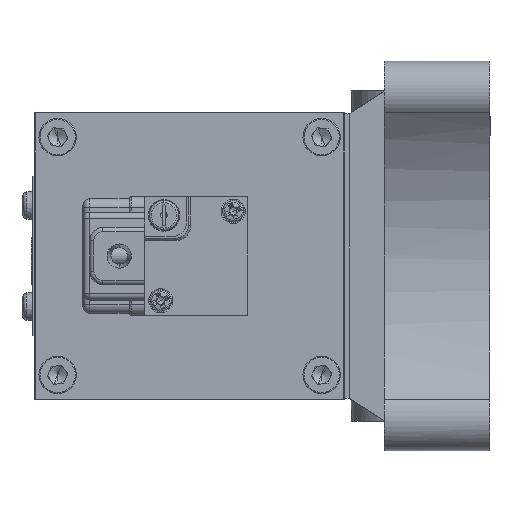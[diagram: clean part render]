
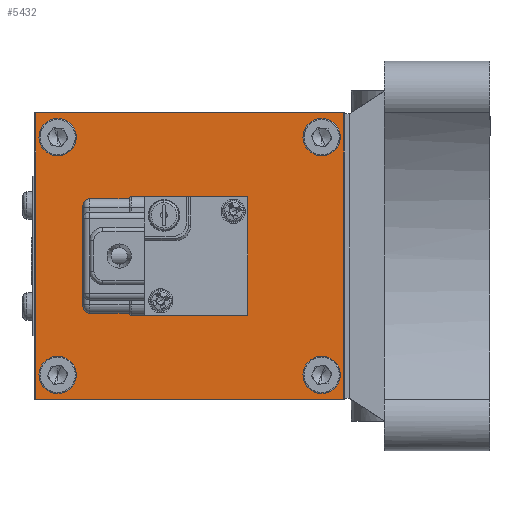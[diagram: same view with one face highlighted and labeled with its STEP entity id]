
A CAD part, left-side view. The second image highlights one B-rep face of the part: STEP entity #5432.
In plain terms, the highlighted planar face has unit normal (-1, 0, 0) as drawn and (0, 0, -1) by its records, which use the part's own axes.
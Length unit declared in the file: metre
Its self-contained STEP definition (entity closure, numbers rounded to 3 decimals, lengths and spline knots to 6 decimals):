
#82 = CIRCLE ( 'NONE', #16246, 0.0025 ) ;
#99 = EDGE_LOOP ( 'NONE', ( #13748, #11259, #19195, #10562 ) ) ;
#149 = DIRECTION ( 'NONE',  ( 1., 0., 0. ) ) ;
#513 = VERTEX_POINT ( 'NONE', #1825 ) ;
#576 = CARTESIAN_POINT ( 'NONE',  ( 0.0325, 0.07125, 0. ) ) ;
#649 = VERTEX_POINT ( 'NONE', #576 ) ;
#926 = EDGE_CURVE ( 'NONE', #16046, #649, #6958, .T. ) ;
#1330 = CARTESIAN_POINT ( 'NONE',  ( 0.0325, 0.03625, 0. ) ) ;
#1347 = VERTEX_POINT ( 'NONE', #2848 ) ;
#1543 = AXIS2_PLACEMENT_3D ( 'NONE', #9077, #20257, #10675 ) ;
#1825 = CARTESIAN_POINT ( 'NONE',  ( -0.0245, 0.06625, 0. ) ) ;
#1931 = EDGE_CURVE ( 'NONE', #1347, #16046, #16951, .T. ) ;
#1996 = CARTESIAN_POINT ( 'NONE',  ( -0.027, 0.00625, 0. ) ) ;
#2028 = VERTEX_POINT ( 'NONE', #7120 ) ;
#2056 = CIRCLE ( 'NONE', #1543, 0.0025 ) ;
#2358 = CARTESIAN_POINT ( 'NONE',  ( -0.0245, 0.00625, 0. ) ) ;
#2428 = DIRECTION ( 'NONE',  ( 1., 0., 0. ) ) ;
#2848 = CARTESIAN_POINT ( 'NONE',  ( -0.0325, 0.00125, 0. ) ) ;
#2873 = CARTESIAN_POINT ( 'NONE',  ( 0.0295, 0.06625, 0. ) ) ;
#2987 = AXIS2_PLACEMENT_3D ( 'NONE', #7156, #11970, #2428 ) ;
#3034 = CARTESIAN_POINT ( 'NONE',  ( 0.0295, 0.00625, 0. ) ) ;
#3126 = FACE_BOUND ( 'NONE', #18095, .T. ) ;
#3540 = DIRECTION ( 'NONE',  ( 0., 0., -1. ) ) ;
#3574 = EDGE_CURVE ( 'NONE', #2028, #1347, #6153, .T. ) ;
#3612 = DIRECTION ( 'NONE',  ( 1., 0., 0. ) ) ;
#3766 = EDGE_CURVE ( 'NONE', #649, #2028, #4206, .T. ) ;
#3818 = CIRCLE ( 'NONE', #4789, 0.0025 ) ;
#3978 = PLANE ( 'NONE',  #2987 ) ;
#4143 = ORIENTED_EDGE ( 'NONE', *, *, #13050, .F. ) ;
#4206 = LINE ( 'NONE', #12835, #20667 ) ;
#4667 = EDGE_CURVE ( 'NONE', #513, #8524, #15856, .T. ) ;
#4789 = AXIS2_PLACEMENT_3D ( 'NONE', #16013, #6426, #17658 ) ;
#4856 = CARTESIAN_POINT ( 'NONE',  ( 0.027, 0.06625, 0. ) ) ;
#4865 = VERTEX_POINT ( 'NONE', #7364 ) ;
#5246 = DIRECTION ( 'NONE',  ( 1., 0., 0. ) ) ;
#5312 = CARTESIAN_POINT ( 'NONE',  ( 0., 0.00125, 0. ) ) ;
#5432 = ADVANCED_FACE ( 'NONE', ( #11596, #19626, #3126, #15344, #11102 ), #3978, .F. ) ;
#5600 = EDGE_LOOP ( 'NONE', ( #7239, #10345 ) ) ;
#6153 = LINE ( 'NONE', #19545, #10430 ) ;
#6422 = DIRECTION ( 'NONE',  ( 1., 0., 0. ) ) ;
#6426 = DIRECTION ( 'NONE',  ( 0., 0., -1. ) ) ;
#6428 = CARTESIAN_POINT ( 'NONE',  ( 0.0245, 0.06625, 0. ) ) ;
#6958 = LINE ( 'NONE', #1330, #9222 ) ;
#7096 = CARTESIAN_POINT ( 'NONE',  ( -0.027, 0.06625, 0. ) ) ;
#7120 = CARTESIAN_POINT ( 'NONE',  ( -0.0325, 0.07125, 0. ) ) ;
#7156 = CARTESIAN_POINT ( 'NONE',  ( -0.0325, 0.00125, 0. ) ) ;
#7239 = ORIENTED_EDGE ( 'NONE', *, *, #4667, .F. ) ;
#7364 = CARTESIAN_POINT ( 'NONE',  ( 0.0245, 0.00625, 0. ) ) ;
#7998 = CARTESIAN_POINT ( 'NONE',  ( -0.0295, 0.00625, 0. ) ) ;
#8101 = EDGE_CURVE ( 'NONE', #17794, #4865, #82, .T. ) ;
#8241 = ORIENTED_EDGE ( 'NONE', *, *, #11635, .F. ) ;
#8511 = EDGE_CURVE ( 'NONE', #12516, #8824, #2056, .T. ) ;
#8524 = VERTEX_POINT ( 'NONE', #10613 ) ;
#8715 = DIRECTION ( 'NONE',  ( 1., 0., 0. ) ) ;
#8820 = VERTEX_POINT ( 'NONE', #7998 ) ;
#8824 = VERTEX_POINT ( 'NONE', #6428 ) ;
#9064 = DIRECTION ( 'NONE',  ( 0., 0., -1. ) ) ;
#9077 = CARTESIAN_POINT ( 'NONE',  ( 0.027, 0.06625, 0. ) ) ;
#9222 = VECTOR ( 'NONE', #9270, 1. ) ;
#9270 = DIRECTION ( 'NONE',  ( 0., 1., 0. ) ) ;
#9659 = CIRCLE ( 'NONE', #11859, 0.0025 ) ;
#9692 = DIRECTION ( 'NONE',  ( 0., 0., -1. ) ) ;
#10345 = ORIENTED_EDGE ( 'NONE', *, *, #19529, .F. ) ;
#10430 = VECTOR ( 'NONE', #19526, 1. ) ;
#10562 = ORIENTED_EDGE ( 'NONE', *, *, #1931, .F. ) ;
#10613 = CARTESIAN_POINT ( 'NONE',  ( -0.0295, 0.06625, 0. ) ) ;
#10675 = DIRECTION ( 'NONE',  ( 1., 0., 0. ) ) ;
#11102 = FACE_OUTER_BOUND ( 'NONE', #99, .T. ) ;
#11259 = ORIENTED_EDGE ( 'NONE', *, *, #3766, .F. ) ;
#11517 = VERTEX_POINT ( 'NONE', #2358 ) ;
#11574 = AXIS2_PLACEMENT_3D ( 'NONE', #4856, #16011, #6422 ) ;
#11596 = FACE_BOUND ( 'NONE', #5600, .T. ) ;
#11635 = EDGE_CURVE ( 'NONE', #4865, #17794, #9659, .T. ) ;
#11843 = CARTESIAN_POINT ( 'NONE',  ( 0.0325, 0.00125, 0. ) ) ;
#11859 = AXIS2_PLACEMENT_3D ( 'NONE', #18653, #9064, #20245 ) ;
#11970 = DIRECTION ( 'NONE',  ( 0., 0., 1. ) ) ;
#12516 = VERTEX_POINT ( 'NONE', #2873 ) ;
#12835 = CARTESIAN_POINT ( 'NONE',  ( 0., 0.07125, 0. ) ) ;
#12895 = DIRECTION ( 'NONE',  ( -1., 0., 0. ) ) ;
#13050 = EDGE_CURVE ( 'NONE', #8820, #11517, #16105, .T. ) ;
#13073 = CARTESIAN_POINT ( 'NONE',  ( -0.027, 0.06625, 0. ) ) ;
#13133 = DIRECTION ( 'NONE',  ( 0., 0., -1. ) ) ;
#13540 = CIRCLE ( 'NONE', #17390, 0.0025 ) ;
#13617 = ORIENTED_EDGE ( 'NONE', *, *, #17344, .F. ) ;
#13748 = ORIENTED_EDGE ( 'NONE', *, *, #3574, .F. ) ;
#13990 = ORIENTED_EDGE ( 'NONE', *, *, #20033, .F. ) ;
#14576 = CIRCLE ( 'NONE', #11574, 0.0025 ) ;
#14669 = DIRECTION ( 'NONE',  ( 1., 0., 0. ) ) ;
#15325 = EDGE_LOOP ( 'NONE', ( #19225, #8241 ) ) ;
#15344 = FACE_BOUND ( 'NONE', #15325, .T. ) ;
#15787 = AXIS2_PLACEMENT_3D ( 'NONE', #1996, #13133, #3612 ) ;
#15856 = CIRCLE ( 'NONE', #15930, 0.0025 ) ;
#15930 = AXIS2_PLACEMENT_3D ( 'NONE', #13073, #3540, #14669 ) ;
#16011 = DIRECTION ( 'NONE',  ( 0., 0., -1. ) ) ;
#16013 = CARTESIAN_POINT ( 'NONE',  ( -0.027, 0.00625, 0. ) ) ;
#16046 = VERTEX_POINT ( 'NONE', #11843 ) ;
#16105 = CIRCLE ( 'NONE', #15787, 0.0025 ) ;
#16246 = AXIS2_PLACEMENT_3D ( 'NONE', #19291, #9692, #149 ) ;
#16598 = EDGE_LOOP ( 'NONE', ( #20552, #13617 ) ) ;
#16951 = LINE ( 'NONE', #5312, #17457 ) ;
#17344 = EDGE_CURVE ( 'NONE', #8824, #12516, #14576, .T. ) ;
#17390 = AXIS2_PLACEMENT_3D ( 'NONE', #7096, #18307, #8715 ) ;
#17457 = VECTOR ( 'NONE', #5246, 1. ) ;
#17658 = DIRECTION ( 'NONE',  ( 1., 0., 0. ) ) ;
#17794 = VERTEX_POINT ( 'NONE', #3034 ) ;
#18095 = EDGE_LOOP ( 'NONE', ( #13990, #4143 ) ) ;
#18307 = DIRECTION ( 'NONE',  ( 0., 0., -1. ) ) ;
#18653 = CARTESIAN_POINT ( 'NONE',  ( 0.027, 0.00625, 0. ) ) ;
#19195 = ORIENTED_EDGE ( 'NONE', *, *, #926, .F. ) ;
#19225 = ORIENTED_EDGE ( 'NONE', *, *, #8101, .F. ) ;
#19291 = CARTESIAN_POINT ( 'NONE',  ( 0.027, 0.00625, 0. ) ) ;
#19526 = DIRECTION ( 'NONE',  ( 0., -1., 0. ) ) ;
#19529 = EDGE_CURVE ( 'NONE', #8524, #513, #13540, .T. ) ;
#19545 = CARTESIAN_POINT ( 'NONE',  ( -0.0325, 0.03625, 0. ) ) ;
#19626 = FACE_BOUND ( 'NONE', #16598, .T. ) ;
#20033 = EDGE_CURVE ( 'NONE', #11517, #8820, #3818, .T. ) ;
#20245 = DIRECTION ( 'NONE',  ( 1., 0., 0. ) ) ;
#20257 = DIRECTION ( 'NONE',  ( 0., 0., -1. ) ) ;
#20552 = ORIENTED_EDGE ( 'NONE', *, *, #8511, .F. ) ;
#20667 = VECTOR ( 'NONE', #12895, 1. ) ;
